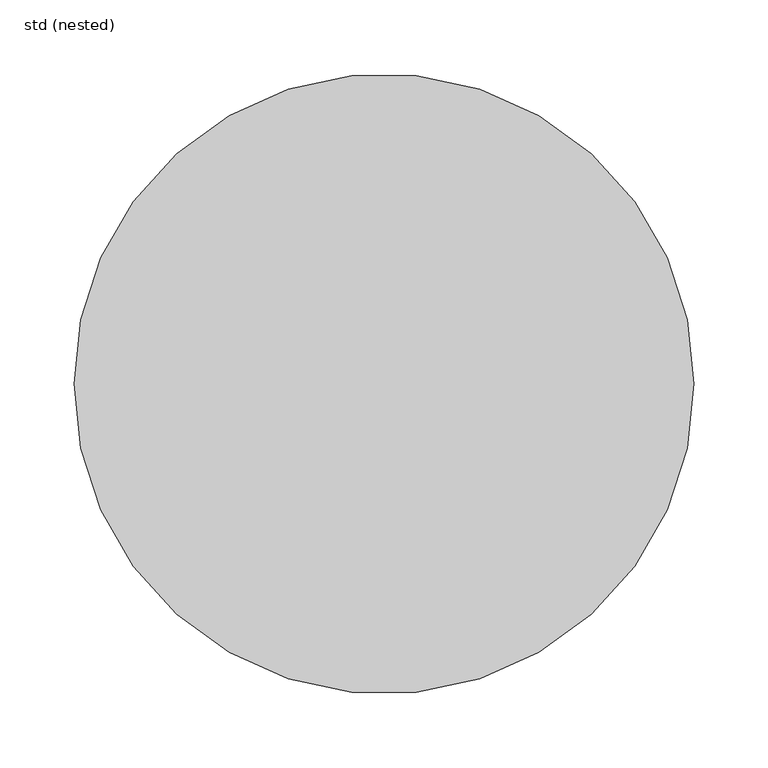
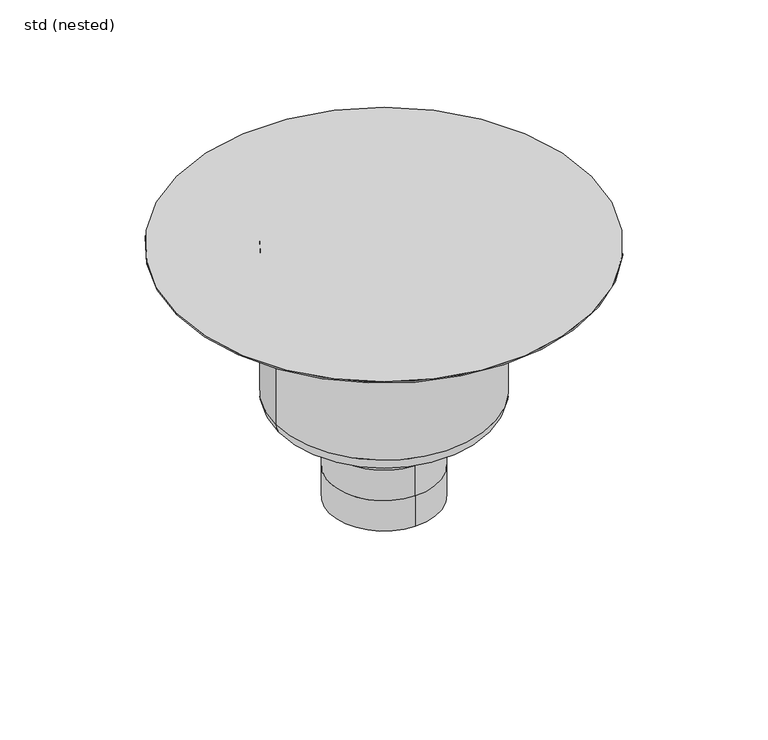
"""IFC4 building model written with IfcOpenShell, lengths in millimetres: sanitary terminal geometry, ZZZ_do not use_PF_ST_UN_telescopic hygienic gully_ACO : std (nested)."""

import ifcopenshell
import ifcopenshell.guid

model = None  # the IFC model being written
_history = None  # IfcOwnerHistory: only IFC2X3 demands one
_inside = {}  # id of a spatial element -> (the spatial element, [elements in it])
_under = {}  # id of a project, library or spatial element -> (it, [spatial elements below it])
_declared = {}  # id of a project -> (the project, [libraries it declares])
_typed = {}  # id of a type object -> (the type object, [elements of that type])
_made_of = {}  # id of a material, layer set ... -> (it, [elements and type objects made of it])


def new_model(schema):
    """Start an empty IFC model of exactly this schema.

    Asked for "IFC4X3", IfcOpenShell would pick the latest addendum, in which some entities
    have other attributes; the version numbers below select the first issue.
    IFC2X3 requires an IfcOwnerHistory on every rooted entity: one is made here for all.
    """
    global model, _history
    if schema == "IFC4X3":
        model = ifcopenshell.file(schema_version=(4, 3, 0, 0))
    else:
        model = ifcopenshell.file(schema=schema)
    _inside.clear()
    _under.clear()
    _declared.clear()
    _typed.clear()
    _made_of.clear()
    _history = None
    if model.schema == "IFC2X3":
        org = make("IfcOrganization", Name="unknown")
        user = make(
            "IfcPersonAndOrganization",
            ThePerson=make("IfcPerson", FamilyName="unknown"),
            TheOrganization=org,
        )
        app = make(
            "IfcApplication",
            ApplicationDeveloper=org,
            Version="unknown",
            ApplicationFullName="unknown",
            ApplicationIdentifier="unknown",
        )
        _history = make(
            "IfcOwnerHistory",
            OwningUser=user,
            OwningApplication=app,
            ChangeAction="ADDED",
            CreationDate=0,
        )
    return model


def make(cls, **values):
    """One entity of the class cls with the attributes given. An attribute that is None is left unset."""
    return model.create_entity(
        cls, **{name: value for name, value in values.items() if value is not None}
    )


def rooted(cls, **values):
    """An entity with a GlobalId (a new one), such as an element, a storey or a relation."""
    return make(cls, GlobalId=ifcopenshell.guid.new(), OwnerHistory=_history, **values)


def si_unit(unit_type, name, prefix=None):
    """IfcSIUnit, for example si_unit("LENGTHUNIT", "METRE", prefix="MILLI")."""
    return make("IfcSIUnit", UnitType=unit_type, Prefix=prefix, Name=name)


def assignment(units):
    """IfcUnitAssignment: the units of a project."""
    return None if units is None else make("IfcUnitAssignment", Units=units)


def point(xyz):
    """IfcCartesianPoint."""
    return None if xyz is None else make("IfcCartesianPoint", Coordinates=xyz)


def direction(xyz):
    """IfcDirection."""
    return None if xyz is None else make("IfcDirection", DirectionRatios=xyz)


def frame(location, z_axis=None, x_axis=None):
    """IfcAxis2Placement3D, a coordinate frame: its origin and axes. An axis left out is left unset."""
    return make(
        "IfcAxis2Placement3D",
        Location=point(location),
        Axis=direction(z_axis),
        RefDirection=direction(x_axis),
    )


def origin():
    """The frame at (0, 0, 0) with its axes left unset."""
    return frame((0.0, 0.0, 0.0))


def origin_with_axes():
    """The frame at (0, 0, 0) with the z axis (0, 0, 1) and the x axis (1, 0, 0) written out."""
    return frame((0.0, 0.0, 0.0), z_axis=(0.0, 0.0, 1.0), x_axis=(1.0, 0.0, 0.0))


def place(relative_to, where):
    """IfcLocalPlacement: puts the frame where relative to a parent placement (None: the world)."""
    return make(
        "IfcLocalPlacement", PlacementRelTo=relative_to, RelativePlacement=where
    )


def context(
    kind, dimensions, precision=None, world=None, true_north=None, identifier=None
):
    """IfcGeometricRepresentationContext, for example the 3D "Model" context."""
    return make(
        "IfcGeometricRepresentationContext",
        ContextIdentifier=identifier,
        ContextType=kind,
        CoordinateSpaceDimension=dimensions,
        Precision=precision,
        WorldCoordinateSystem=world,
        TrueNorth=true_north,
    )


def project(units=None, contexts=None):
    """IfcProject with its units and contexts."""
    return rooted(
        "IfcProject",
        Name="project",
        RepresentationContexts=contexts,
        UnitsInContext=assignment(units),
    )


def spatial(cls, under=None, at=None, **own):
    """A site, building, storey or space (cls), placed at a placement, below another one or the project."""
    s = rooted(cls, ObjectPlacement=at, **own)
    if under is not None:
        _under.setdefault(under.id(), (under, []))[1].append(s)
    return s


def circle_curve(where, radius):
    """IfcCircle in the frame where."""
    return make("IfcCircle", Position=where, Radius=radius)


def ellipse_curve(where, semi_axis1, semi_axis2):
    """IfcEllipse in the frame where."""
    return make(
        "IfcEllipse", Position=where, SemiAxis1=semi_axis1, SemiAxis2=semi_axis2
    )


def trimmed(basis, trim1, trim2, sense, master):
    """IfcTrimmedCurve: the piece of a basis curve between two trims."""
    return make(
        "IfcTrimmedCurve",
        BasisCurve=basis,
        Trim1=trim1,
        Trim2=trim2,
        SenseAgreement=sense,
        MasterRepresentation=master,
    )


def shape(context_of_items, identifier, shape_type, items):
    """IfcShapeRepresentation: the items that make up one representation, for example the "Body"."""
    return make(
        "IfcShapeRepresentation",
        ContextOfItems=context_of_items,
        RepresentationIdentifier=identifier,
        RepresentationType=shape_type,
        Items=items,
    )


def source(mapping_origin, context_of_items, identifier, shape_type, items):
    """IfcRepresentationMap: a shape defined once, which mapped items show again and again."""
    return make(
        "IfcRepresentationMap",
        MappingOrigin=mapping_origin,
        MappedRepresentation=shape(context_of_items, identifier, shape_type, items),
    )


def transform(
    local_origin,
    x_axis=None,
    y_axis=None,
    z_axis=None,
    scale=None,
    scale2=None,
    scale3=None,
    uniform=True,
):
    """IfcCartesianTransformationOperator3D, or its non-uniform kind. x_axis, y_axis, z_axis: its Axis1, 2, 3."""
    if uniform:
        return make(
            "IfcCartesianTransformationOperator3D",
            Axis1=direction(x_axis),
            Axis2=direction(y_axis),
            LocalOrigin=point(local_origin),
            Scale=scale,
            Axis3=direction(z_axis),
        )
    return make(
        "IfcCartesianTransformationOperator3DnonUniform",
        Axis1=direction(x_axis),
        Axis2=direction(y_axis),
        LocalOrigin=point(local_origin),
        Scale=scale,
        Axis3=direction(z_axis),
        Scale2=scale2,
        Scale3=scale3,
    )


def mapped(mapping_source, mapping_target):
    """IfcMappedItem: shows the shape of a source again, moved by a transform."""
    return make(
        "IfcMappedItem", MappingSource=mapping_source, MappingTarget=mapping_target
    )


def made_of(thing, what):
    """Note that an element or type object is made of a material, layer set ...; save() writes the relation."""
    if what is not None:
        _made_of.setdefault(what.id(), (what, []))[1].append(thing)
    return thing


def element(
    cls,
    number,
    at=None,
    inside=None,
    cuts=None,
    type_object=None,
    material=None,
    context=None,
    identifier="Body",
    shape_type=None,
    held_by="IfcProductDefinitionShape",
    body=None,
    shapes=None,
    **own,
):
    """One element of the class cls, such as IfcWall. Its Tag is "e" and its number.

    at: its placement. inside: the storey or other place that contains it. cuts: it is an
    opening in that element (IfcRelVoidsElement). A single representation is given by context,
    identifier, shape_type and body (its items); several are given by shapes. held_by: the class
    of the entity that holds the representations. save() writes the other relations.
    """
    e = rooted(cls, Tag="e%d" % number, ObjectPlacement=at, **own)
    if body is not None:
        shapes = [shape(context, identifier, shape_type, body)]
    if shapes is not None:
        e.Representation = make(held_by, Representations=shapes)
    if inside is not None:
        _inside.setdefault(inside.id(), (inside, []))[1].append(e)
    if cuts is not None:
        rooted(
            "IfcRelVoidsElement", RelatingBuildingElement=cuts, RelatedOpeningElement=e
        )
    if type_object is not None:
        _typed.setdefault(type_object.id(), (type_object, []))[1].append(e)
    return made_of(e, material)


def aggregate(whole, parts):
    """IfcRelAggregates: a whole, such as a stair, and the parts it consists of."""
    return rooted("IfcRelAggregates", RelatingObject=whole, RelatedObjects=parts)


def save(model, path):
    """Write the relations noted so far, then the file.

    IfcRelAggregates (storeys below a building ...), IfcRelContainedInSpatialStructure (elements
    in a storey), IfcRelDefinesByType, IfcRelAssociatesMaterial and IfcRelDeclares: one each for
    every whole, place, type object, material and project.
    """
    for whole, parts in _under.values():
        aggregate(whole, parts)
    for where, things in _inside.values():
        rooted(
            "IfcRelContainedInSpatialStructure",
            RelatedElements=things,
            RelatingStructure=where,
        )
    for kind, things in _typed.values():
        rooted("IfcRelDefinesByType", RelatedObjects=things, RelatingType=kind)
    for what, things in _made_of.values():
        rooted("IfcRelAssociatesMaterial", RelatedObjects=things, RelatingMaterial=what)
    for by, libraries in _declared.values():
        rooted("IfcRelDeclares", RelatingContext=by, RelatedDefinitions=libraries)
    model.write(path)


def plane_surface(at):
    """IfcPlane: the flat surface through the origin of the frame at, square to its z axis."""
    return make("IfcPlane", Position=at)


def cylinder_surface(at, radius):
    """IfcCylindricalSurface: all points at the distance radius from the z axis of the frame at."""
    return make("IfcCylindricalSurface", Position=at, Radius=radius)


def revolved_surface(curve, axis_point, axis_direction):
    """IfcSurfaceOfRevolution: the curve turned about the line through axis_point along axis_direction."""
    return make(
        "IfcSurfaceOfRevolution",
        SweptCurve=make("IfcArbitraryOpenProfileDef", ProfileType="CURVE", Curve=curve),
        AxisPosition=make("IfcAxis1Placement", Location=point(axis_point), Axis=direction(axis_direction)),
    )


def advanced_brep(points, edges, surfaces, faces):
    """IfcAdvancedBrep: a solid bounded by faces that lie on surfaces and meet in shared edges.

    An edge is (start, end): straight between two places in points (the first is 0);
    or (start, end, curve); or (start, end, curve, False) where it runs against its curve.
    A face is (place in surfaces, loops), or (place, loops, False) where it looks against
    its surface's normal. A loop lists edges by number (the first is 1), with a minus sign
    where the edge is run from its end to its start. The first loop is the outer one.
    """
    corners = [point(p) for p in points]
    vertices = [make("IfcVertexPoint", VertexGeometry=c) for c in corners]
    made = []
    for start, end, *more in edges:
        made.append(
            make(
                "IfcEdgeCurve",
                EdgeStart=vertices[start],
                EdgeEnd=vertices[end],
                EdgeGeometry=more[0] if more else make("IfcPolyline", Points=[corners[start], corners[end]]),
                SameSense=more[1] if len(more) > 1 else True,
            )
        )
    hull = []
    for where, loops, *sense in faces:
        bounds = []
        for j, loop in enumerate(loops):
            ring = [make("IfcOrientedEdge", EdgeElement=made[abs(k) - 1], Orientation=k > 0) for k in loop]
            bounds.append(
                make(
                    "IfcFaceOuterBound" if j == 0 else "IfcFaceBound",
                    Bound=make("IfcEdgeLoop", EdgeList=ring),
                    Orientation=True,
                )
            )
        hull.append(make("IfcAdvancedFace", Bounds=bounds, FaceSurface=surfaces[where], SameSense=sense[0] if sense else True))
    return make("IfcAdvancedBrep", Outer=make("IfcClosedShell", CfsFaces=hull))


def std_nested_fb4eed41(model_context):
    return source(origin(), model_context, "Body", "AdvancedBrep", [
        advanced_brep(
        [(0.0, -55.0, -267.0), (0.0, 55.0, -267.0), (0.0, -55.0, -234.6666667), (0.0, 55.0, -234.6666667), (0.0, -55.0, -202.3333333), (0.0, 55.0, -202.3333333), (0.0, 55.0, -170.0), (55.0, 0.0, -170.0), (0.0, -55.0, -170.0), (-55.0, 0.0, -170.0), (109.0, 0.0, -153.5), (-109.0, 0.0, -153.5), (-109.0, 0.0, -1.5), (109.0, 0.0, -1.5), (92.5, 0.0, -170.0), (-92.5, 0.0, -170.0), (-209.0, 0.0, -1.5), (209.0, 0.0, -1.5), (-209.0, 0.0, 0.0), (209.0, 0.0, 0.0)],
        [
            (0, 1, circle_curve(frame((0.0, 0.0, -267.0), z_axis=(0.0, 0.0, -1.0), x_axis=(0.0, 1.0, 0.0)), 55.0)),
            (1, 0, circle_curve(frame((0.0, 0.0, -267.0), z_axis=(0.0, 0.0, -1.0), x_axis=(0.0, 1.0, 0.0)), 55.0)),
            (0, 2),
            (2, 3, circle_curve(frame((0.0, 0.0, -234.6666667), z_axis=(0.0, 0.0, -1.0), x_axis=(0.0, 1.0, 0.0)), 55.0)),
            (3, 1),
            (3, 2, circle_curve(frame((0.0, 0.0, -234.6666667), z_axis=(0.0, 0.0, -1.0), x_axis=(0.0, 1.0, 0.0)), 55.0)),
            (4, 2),
            (3, 5),
            (5, 4, circle_curve(frame((0.0, 0.0, -202.3333333), z_axis=(0.0, 0.0, -1.0), x_axis=(1.0, 0.0, 0.0)), 55.0)),
            (4, 5, circle_curve(frame((0.0, 0.0, -202.3333333), z_axis=(0.0, 0.0, -1.0), x_axis=(-1.0, 0.0, 0.0)), 55.0)),
            (5, 6),
            (6, 7, circle_curve(frame((0.0, 0.0, -170.0), z_axis=(0.0, 0.0, -1.0), x_axis=(0.0, 1.0, 0.0)), 55.0)),
            (7, 8, circle_curve(frame((0.0, 0.0, -170.0), z_axis=(0.0, 0.0, -1.0), x_axis=(0.0, 1.0, 0.0)), 55.0)),
            (8, 4),
            (8, 9, circle_curve(frame((0.0, 0.0, -170.0), z_axis=(0.0, 0.0, -1.0), x_axis=(0.0, 1.0, 0.0)), 55.0)),
            (9, 6, circle_curve(frame((0.0, 0.0, -170.0), z_axis=(0.0, 0.0, -1.0), x_axis=(0.0, 1.0, 0.0)), 55.0)),
            (10, 11, circle_curve(frame((0.0, 0.0, -153.5), z_axis=(0.0, 0.0, 1.0), x_axis=(-1.0, 0.0, 0.0)), 109.0)),
            (11, 12),
            (12, 13, circle_curve(frame((0.0, 0.0, -1.5), z_axis=(0.0, 0.0, -1.0), x_axis=(-1.0, 0.0, 0.0)), 109.0)),
            (13, 10),
            (11, 10, circle_curve(frame((0.0, 0.0, -153.5), z_axis=(0.0, 0.0, 1.0), x_axis=(-1.0, 0.0, 0.0)), 109.0)),
            (13, 12, circle_curve(frame((0.0, 0.0, -1.5), z_axis=(0.0, 0.0, -1.0), x_axis=(-1.0, 0.0, 0.0)), 109.0)),
            (10, 14, circle_curve(frame((92.5, 0.0, -153.5), z_axis=(0.0, 1.0, 0.0), x_axis=(-1.0, 0.0, 0.0)), 16.5)),
            (14, 15, circle_curve(frame((0.0, 0.0, -170.0), z_axis=(0.0, 0.0, 1.0), x_axis=(-1.0, 0.0, 0.0)), 92.5)),
            (15, 11, circle_curve(frame((-92.5, 0.0, -153.5), z_axis=(0.0, 1.0, 0.0), x_axis=(1.0, 0.0, 0.0)), 16.5)),
            (15, 14, circle_curve(frame((0.0, 0.0, -170.0), z_axis=(0.0, 0.0, 1.0), x_axis=(-1.0, 0.0, 0.0)), 92.5)),
            (14, 7),
            (9, 15),
            (16, 17, circle_curve(frame((0.0, 0.0, -1.5), z_axis=(0.0, 0.0, -1.0), x_axis=(1.0, 0.0, 0.0)), 209.0)),
            (17, 16, circle_curve(frame((0.0, 0.0, -1.5), z_axis=(0.0, 0.0, -1.0), x_axis=(1.0, 0.0, 0.0)), 209.0)),
            (18, 19, circle_curve(origin_with_axes(), 209.0)),
            (19, 18, circle_curve(origin_with_axes(), 209.0)),
            (17, 19),
            (18, 16),
        ],
        [
            plane_surface(frame((0.0, 55.0, -267.0), z_axis=(0.0, 0.0, -1.0), x_axis=(1.0, 0.0, 0.0))),
            cylinder_surface(frame((0.0, 0.0, -234.6666667), z_axis=(0.0, 0.0, -1.0), x_axis=(0.0, 1.0, 0.0)), 55.0),
            cylinder_surface(frame((0.0, 0.0, -202.3333333), z_axis=(0.0, 0.0, -1.0), x_axis=(1.0, 0.0, 0.0)), 55.0),
            cylinder_surface(frame((0.0, 0.0, -202.3333333), z_axis=(0.0, 0.0, -1.0), x_axis=(-1.0, 0.0, 0.0)), 55.0),
            cylinder_surface(frame((0.0, 0.0, -170.0), z_axis=(0.0, 0.0, -1.0), x_axis=(0.0, 1.0, 0.0)), 55.0),
            cylinder_surface(frame((0.0, 0.0, 60.0), z_axis=(0.0, 0.0, -1.0), x_axis=(-1.0, 0.0, 0.0)), 109.0),
            revolved_surface(trimmed(ellipse_curve(frame((-92.5, 0.0, -153.5), z_axis=(0.0, -1.0, 0.0), x_axis=(1.0, 0.0, 0.0)), 16.5, 16.5), [point((-109.0, 0.0, -153.5))], [point((-92.5, 0.0, -170.0))], True, "CARTESIAN"), (0.0, 0.0, 60.0), (0.0, 0.0, -1.0)),
            plane_surface(frame((0.0, 0.0, -170.0), z_axis=(0.0, 0.0, -1.0), x_axis=(-1.0, 0.0, 0.0))),
            plane_surface(frame((209.0, 0.0, -1.5), z_axis=(0.0, 0.0, -1.0), x_axis=(0.0, -1.0, 0.0))),
            plane_surface(frame((209.0, 0.0, 0.0), z_axis=(0.0, 0.0, 1.0), x_axis=(0.0, 1.0, 0.0))),
            cylinder_surface(frame((0.0, 0.0, -1.5), z_axis=(0.0, 0.0, 1.0), x_axis=(1.0, 0.0, 0.0)), 209.0),
        ],
        [
            (0, [[1, 2]]),
            (1, [[-1, 3, 4, 5]]),
            (1, [[-2, -5, 6, -3]]),
            (2, [[7, -6, 8, 9]]),
            (3, [[-7, 10, -8, -4]]),
            (4, [[11, 12, 13, 14, -9]]),
            (4, [[-11, -10, -14, 15, 16]]),
            (5, [[17, 18, 19, 20]]),
            (5, [[-18, 21, -20, 22]]),
            (6, [[-17, 23, 24, 25]]),
            (6, [[-21, -25, 26, -23]]),
            (7, [[-24, 27, -12, -16, 28]]),
            (7, [[-26, -28, -15, -13, -27]]),
            (8, [[29, 30], [-19, -22]]),
            (9, [[31, 32]]),
            (10, [[-30, 33, -31, 34]]),
            (10, [[-29, -34, -32, -33]]),
        ],
    ),
    ])


if __name__ == "__main__":
    model = new_model("IFC4")
    model_context = context("Model", 3, world=origin())
    ifc_project = project(units=[si_unit("LENGTHUNIT", "METRE", prefix="MILLI")], contexts=[model_context])
    site = spatial("IfcSite", under=ifc_project)
    building = spatial("IfcBuilding", under=site)
    placement = place(None, origin())
    std_nested_shape = std_nested_fb4eed41(model_context)
    element("IfcSanitaryTerminal", 1, ObjectType="ZZZ_do not use_PF_ST_UN_telescopic hygienic gully_ACO : std (nested)", at=placement, inside=building, context=model_context, shape_type="MappedRepresentation", body=[
        mapped(std_nested_shape, transform((0.0, 0.0, 0.0), x_axis=(1.0, 0.0, 0.0), y_axis=(0.0, 1.0, 0.0), z_axis=(0.0, 0.0, 1.0))),
    ])
    save(model, "model.ifc")
